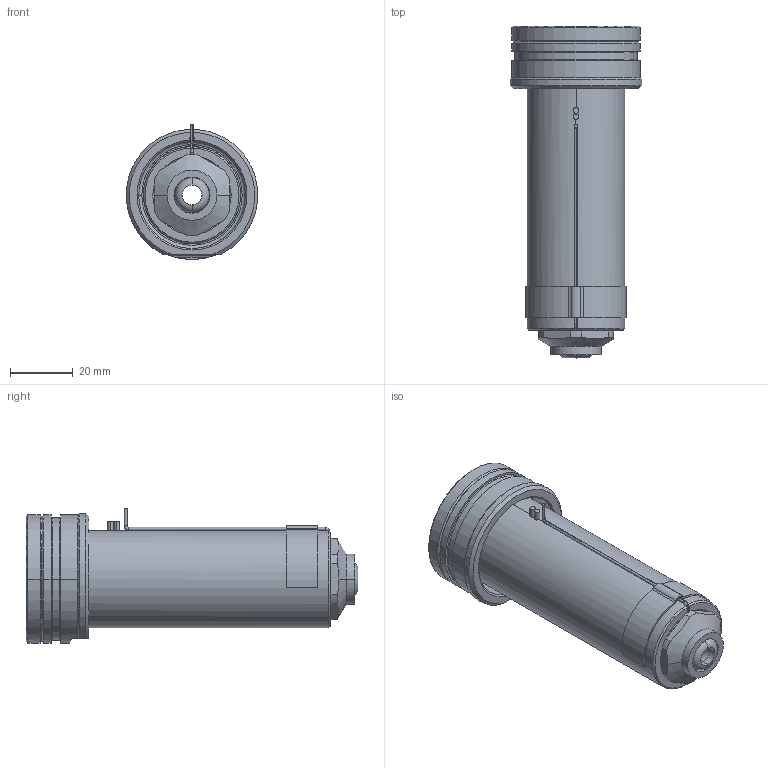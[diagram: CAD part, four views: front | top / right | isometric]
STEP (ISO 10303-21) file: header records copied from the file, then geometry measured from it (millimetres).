
FILE_DESCRIPTION((''),'2;1');
FILE_NAME('EO12_VG-BL_WR_090_SW','2024-02-19T13:15:59',('sundharh'),(''),'CREO PARAMETRIC BY PTC INC, 2023154','CREO PARAMETRIC BY PTC INC, 2023154','');
FILE_SCHEMA(('CONFIG_CONTROL_DESIGN'));
Length unit declared in the file: millimetre
Products named in the file (1): EO12_VG-BL_WR_090_SW
Bounding box: 41.85 x 105.8 x 43 mm (x, y, z)
Volume: 73332.5 mm3; surface area: 22072.9 mm2
Topology: 2 solids, 3 shells, 205 faces, 508 edges, 307 vertices
Faces by surface type: cylinder 73, plane 47, cone 39, torus 35, bspline 9, sphere 2
Entity records: 6915 total; most frequent: CARTESIAN_POINT 1939, DIRECTION 1108, ORIENTED_EDGE 1012, EDGE_CURVE 506, AXIS2_PLACEMENT_3D 467, VERTEX_POINT 307, CIRCLE 271, EDGE_LOOP 221
